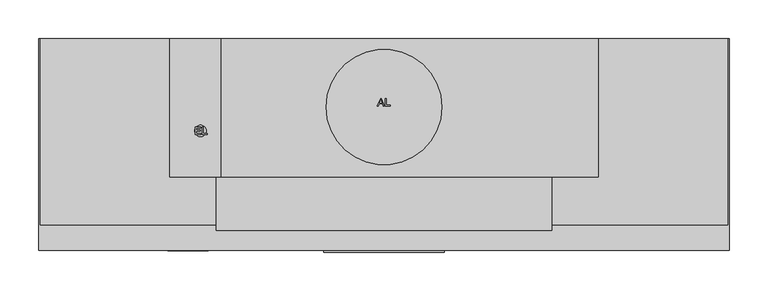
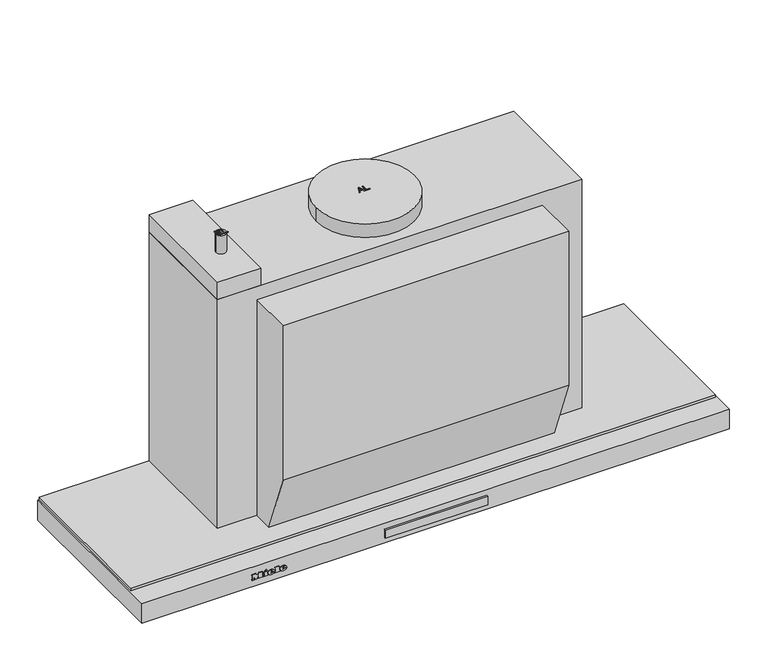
"""IFC4 building model written with IfcOpenShell, lengths in millimetres: proxy geometry, 12569030_PAC_DAS4920_MASW : 28S4920M_PAC_12569030_DAS4920_MASW."""

import ifcopenshell
import ifcopenshell.guid

model = None  # the IFC model being written
_history = None  # IfcOwnerHistory: only IFC2X3 demands one
_inside = {}  # id of a spatial element -> (the spatial element, [elements in it])
_under = {}  # id of a project, library or spatial element -> (it, [spatial elements below it])
_declared = {}  # id of a project -> (the project, [libraries it declares])
_typed = {}  # id of a type object -> (the type object, [elements of that type])
_made_of = {}  # id of a material, layer set ... -> (it, [elements and type objects made of it])


def new_model(schema):
    """Start an empty IFC model of exactly this schema.

    Asked for "IFC4X3", IfcOpenShell would pick the latest addendum, in which some entities
    have other attributes; the version numbers below select the first issue.
    IFC2X3 requires an IfcOwnerHistory on every rooted entity: one is made here for all.
    """
    global model, _history
    if schema == "IFC4X3":
        model = ifcopenshell.file(schema_version=(4, 3, 0, 0))
    else:
        model = ifcopenshell.file(schema=schema)
    _inside.clear()
    _under.clear()
    _declared.clear()
    _typed.clear()
    _made_of.clear()
    _history = None
    if model.schema == "IFC2X3":
        org = make("IfcOrganization", Name="unknown")
        user = make(
            "IfcPersonAndOrganization",
            ThePerson=make("IfcPerson", FamilyName="unknown"),
            TheOrganization=org,
        )
        app = make(
            "IfcApplication",
            ApplicationDeveloper=org,
            Version="unknown",
            ApplicationFullName="unknown",
            ApplicationIdentifier="unknown",
        )
        _history = make(
            "IfcOwnerHistory",
            OwningUser=user,
            OwningApplication=app,
            ChangeAction="ADDED",
            CreationDate=0,
        )
    return model


def make(cls, **values):
    """One entity of the class cls with the attributes given. An attribute that is None is left unset."""
    return model.create_entity(
        cls, **{name: value for name, value in values.items() if value is not None}
    )


def rooted(cls, **values):
    """An entity with a GlobalId (a new one), such as an element, a storey or a relation."""
    return make(cls, GlobalId=ifcopenshell.guid.new(), OwnerHistory=_history, **values)


def si_unit(unit_type, name, prefix=None):
    """IfcSIUnit, for example si_unit("LENGTHUNIT", "METRE", prefix="MILLI")."""
    return make("IfcSIUnit", UnitType=unit_type, Prefix=prefix, Name=name)


def assignment(units):
    """IfcUnitAssignment: the units of a project."""
    return None if units is None else make("IfcUnitAssignment", Units=units)


def point(xyz):
    """IfcCartesianPoint."""
    return None if xyz is None else make("IfcCartesianPoint", Coordinates=xyz)


def direction(xyz):
    """IfcDirection."""
    return None if xyz is None else make("IfcDirection", DirectionRatios=xyz)


def frame(location, z_axis=None, x_axis=None):
    """IfcAxis2Placement3D, a coordinate frame: its origin and axes. An axis left out is left unset."""
    return make(
        "IfcAxis2Placement3D",
        Location=point(location),
        Axis=direction(z_axis),
        RefDirection=direction(x_axis),
    )


def frame_2d(location, x_axis=None):
    """IfcAxis2Placement2D, a coordinate frame in the plane: its origin and x axis."""
    return make(
        "IfcAxis2Placement2D", Location=point(location), RefDirection=direction(x_axis)
    )


def origin():
    """The frame at (0, 0, 0) with its axes left unset."""
    return frame((0.0, 0.0, 0.0))


def origin_with_axes():
    """The frame at (0, 0, 0) with the z axis (0, 0, 1) and the x axis (1, 0, 0) written out."""
    return frame((0.0, 0.0, 0.0), z_axis=(0.0, 0.0, 1.0), x_axis=(1.0, 0.0, 0.0))


def place(relative_to, where):
    """IfcLocalPlacement: puts the frame where relative to a parent placement (None: the world)."""
    return make(
        "IfcLocalPlacement", PlacementRelTo=relative_to, RelativePlacement=where
    )


def context(
    kind, dimensions, precision=None, world=None, true_north=None, identifier=None
):
    """IfcGeometricRepresentationContext, for example the 3D "Model" context."""
    return make(
        "IfcGeometricRepresentationContext",
        ContextIdentifier=identifier,
        ContextType=kind,
        CoordinateSpaceDimension=dimensions,
        Precision=precision,
        WorldCoordinateSystem=world,
        TrueNorth=true_north,
    )


def project(units=None, contexts=None):
    """IfcProject with its units and contexts."""
    return rooted(
        "IfcProject",
        Name="project",
        RepresentationContexts=contexts,
        UnitsInContext=assignment(units),
    )


def spatial(cls, under=None, at=None, **own):
    """A site, building, storey or space (cls), placed at a placement, below another one or the project."""
    s = rooted(cls, ObjectPlacement=at, **own)
    if under is not None:
        _under.setdefault(under.id(), (under, []))[1].append(s)
    return s


def polyline(points):
    """IfcPolyline through the points."""
    return make("IfcPolyline", Points=[point(p) for p in points])


def circle_curve(where, radius):
    """IfcCircle in the frame where."""
    return make("IfcCircle", Position=where, Radius=radius)


def ellipse_curve(where, semi_axis1, semi_axis2):
    """IfcEllipse in the frame where."""
    return make(
        "IfcEllipse", Position=where, SemiAxis1=semi_axis1, SemiAxis2=semi_axis2
    )


def trimmed(basis, trim1, trim2, sense, master):
    """IfcTrimmedCurve: the piece of a basis curve between two trims."""
    return make(
        "IfcTrimmedCurve",
        BasisCurve=basis,
        Trim1=trim1,
        Trim2=trim2,
        SenseAgreement=sense,
        MasterRepresentation=master,
    )


def segment(curve, same_sense, transition):
    """IfcCompositeCurveSegment."""
    return make(
        "IfcCompositeCurveSegment",
        Transition=transition,
        SameSense=same_sense,
        ParentCurve=curve,
    )


def composite_curve(segments, self_intersect=None):
    """IfcCompositeCurve: segments joined end to end."""
    return make("IfcCompositeCurve", Segments=segments, SelfIntersect=self_intersect)


def outline(outer, holes=None, kind="AREA"):
    """IfcArbitraryClosedProfileDef: a profile drawn as a closed curve; with holes, ...WithVoids."""
    if holes is None:
        return make("IfcArbitraryClosedProfileDef", ProfileType=kind, OuterCurve=outer)
    return make(
        "IfcArbitraryProfileDefWithVoids",
        ProfileType=kind,
        OuterCurve=outer,
        InnerCurves=holes,
    )


def extrude(swept, where, along, depth):
    """IfcExtrudedAreaSolid: the profile swept, set in the frame where, extruded along a direction by depth."""
    return make(
        "IfcExtrudedAreaSolid",
        SweptArea=swept,
        Position=where,
        ExtrudedDirection=direction(along),
        Depth=depth,
    )


def faces_of(points, faces, orient=None, outer=None):
    """IfcFace entities. A face is a list of loops; a loop is a list of indices into points, from 0.

    orient and outer hold one flag for each loop. By default every Orientation is true, the
    first loop of a face is its IfcFaceOuterBound and the others are IfcFaceBound.
    """
    made = []
    for i, loops in enumerate(faces):
        bounds = []
        for j, loop in enumerate(loops):
            is_outer = j == 0 if outer is None else outer[i][j]
            bounds.append(
                make(
                    "IfcFaceOuterBound" if is_outer else "IfcFaceBound",
                    Bound=make("IfcPolyLoop", Polygon=[points[k] for k in loop]),
                    Orientation=True if orient is None else orient[i][j],
                )
            )
        made.append(make("IfcFace", Bounds=bounds))
    return made


def faceted_brep(points, faces, orient=None, outer=None, voids=None):
    """IfcFacetedBrep: a solid bounded by flat faces; with voids (closed shells), ...WithVoids."""
    shared = [point(p) for p in points]
    hull = make("IfcClosedShell", CfsFaces=faces_of(shared, faces, orient, outer))
    if voids is None:
        return make("IfcFacetedBrep", Outer=hull)
    return make(
        "IfcFacetedBrepWithVoids",
        Outer=hull,
        Voids=[
            make(cls, CfsFaces=faces_of(shared, fs, o, b)) for cls, fs, o, b in voids
        ],
    )


def shape(context_of_items, identifier, shape_type, items):
    """IfcShapeRepresentation: the items that make up one representation, for example the "Body"."""
    return make(
        "IfcShapeRepresentation",
        ContextOfItems=context_of_items,
        RepresentationIdentifier=identifier,
        RepresentationType=shape_type,
        Items=items,
    )


def source(mapping_origin, context_of_items, identifier, shape_type, items):
    """IfcRepresentationMap: a shape defined once, which mapped items show again and again."""
    return make(
        "IfcRepresentationMap",
        MappingOrigin=mapping_origin,
        MappedRepresentation=shape(context_of_items, identifier, shape_type, items),
    )


def transform(
    local_origin,
    x_axis=None,
    y_axis=None,
    z_axis=None,
    scale=None,
    scale2=None,
    scale3=None,
    uniform=True,
):
    """IfcCartesianTransformationOperator3D, or its non-uniform kind. x_axis, y_axis, z_axis: its Axis1, 2, 3."""
    if uniform:
        return make(
            "IfcCartesianTransformationOperator3D",
            Axis1=direction(x_axis),
            Axis2=direction(y_axis),
            LocalOrigin=point(local_origin),
            Scale=scale,
            Axis3=direction(z_axis),
        )
    return make(
        "IfcCartesianTransformationOperator3DnonUniform",
        Axis1=direction(x_axis),
        Axis2=direction(y_axis),
        LocalOrigin=point(local_origin),
        Scale=scale,
        Axis3=direction(z_axis),
        Scale2=scale2,
        Scale3=scale3,
    )


def mapped(mapping_source, mapping_target):
    """IfcMappedItem: shows the shape of a source again, moved by a transform."""
    return make(
        "IfcMappedItem", MappingSource=mapping_source, MappingTarget=mapping_target
    )


def made_of(thing, what):
    """Note that an element or type object is made of a material, layer set ...; save() writes the relation."""
    if what is not None:
        _made_of.setdefault(what.id(), (what, []))[1].append(thing)
    return thing


def element(
    cls,
    number,
    at=None,
    inside=None,
    cuts=None,
    type_object=None,
    material=None,
    context=None,
    identifier="Body",
    shape_type=None,
    held_by="IfcProductDefinitionShape",
    body=None,
    shapes=None,
    **own,
):
    """One element of the class cls, such as IfcWall. Its Tag is "e" and its number.

    at: its placement. inside: the storey or other place that contains it. cuts: it is an
    opening in that element (IfcRelVoidsElement). A single representation is given by context,
    identifier, shape_type and body (its items); several are given by shapes. held_by: the class
    of the entity that holds the representations. save() writes the other relations.
    """
    e = rooted(cls, Tag="e%d" % number, ObjectPlacement=at, **own)
    if body is not None:
        shapes = [shape(context, identifier, shape_type, body)]
    if shapes is not None:
        e.Representation = make(held_by, Representations=shapes)
    if inside is not None:
        _inside.setdefault(inside.id(), (inside, []))[1].append(e)
    if cuts is not None:
        rooted(
            "IfcRelVoidsElement", RelatingBuildingElement=cuts, RelatedOpeningElement=e
        )
    if type_object is not None:
        _typed.setdefault(type_object.id(), (type_object, []))[1].append(e)
    return made_of(e, material)


def aggregate(whole, parts):
    """IfcRelAggregates: a whole, such as a stair, and the parts it consists of."""
    return rooted("IfcRelAggregates", RelatingObject=whole, RelatedObjects=parts)


def save(model, path):
    """Write the relations noted so far, then the file.

    IfcRelAggregates (storeys below a building ...), IfcRelContainedInSpatialStructure (elements
    in a storey), IfcRelDefinesByType, IfcRelAssociatesMaterial and IfcRelDeclares: one each for
    every whole, place, type object, material and project.
    """
    for whole, parts in _under.values():
        aggregate(whole, parts)
    for where, things in _inside.values():
        rooted(
            "IfcRelContainedInSpatialStructure",
            RelatedElements=things,
            RelatingStructure=where,
        )
    for kind, things in _typed.values():
        rooted("IfcRelDefinesByType", RelatedObjects=things, RelatingType=kind)
    for what, things in _made_of.values():
        rooted("IfcRelAssociatesMaterial", RelatedObjects=things, RelatingMaterial=what)
    for by, libraries in _declared.values():
        rooted("IfcRelDeclares", RelatingContext=by, RelatedDefinitions=libraries)
    model.write(path)


def plane_surface(at):
    """IfcPlane: the flat surface through the origin of the frame at, square to its z axis."""
    return make("IfcPlane", Position=at)


def cylinder_surface(at, radius):
    """IfcCylindricalSurface: all points at the distance radius from the z axis of the frame at."""
    return make("IfcCylindricalSurface", Position=at, Radius=radius)


def revolved_surface(curve, axis_point, axis_direction):
    """IfcSurfaceOfRevolution: the curve turned about the line through axis_point along axis_direction."""
    return make(
        "IfcSurfaceOfRevolution",
        SweptCurve=make("IfcArbitraryOpenProfileDef", ProfileType="CURVE", Curve=curve),
        AxisPosition=make("IfcAxis1Placement", Location=point(axis_point), Axis=direction(axis_direction)),
    )


def extruded_surface(curve, direction_of_extrusion, depth):
    """IfcSurfaceOfLinearExtrusion: the curve pushed along a direction by depth."""
    return make(
        "IfcSurfaceOfLinearExtrusion",
        SweptCurve=make("IfcArbitraryOpenProfileDef", ProfileType="CURVE", Curve=curve),
        ExtrudedDirection=direction(direction_of_extrusion),
        Depth=depth,
    )


def advanced_brep(points, edges, surfaces, faces):
    """IfcAdvancedBrep: a solid bounded by faces that lie on surfaces and meet in shared edges.

    An edge is (start, end): straight between two places in points (the first is 0);
    or (start, end, curve); or (start, end, curve, False) where it runs against its curve.
    A face is (place in surfaces, loops), or (place, loops, False) where it looks against
    its surface's normal. A loop lists edges by number (the first is 1), with a minus sign
    where the edge is run from its end to its start. The first loop is the outer one.
    """
    corners = [point(p) for p in points]
    vertices = [make("IfcVertexPoint", VertexGeometry=c) for c in corners]
    made = []
    for start, end, *more in edges:
        made.append(
            make(
                "IfcEdgeCurve",
                EdgeStart=vertices[start],
                EdgeEnd=vertices[end],
                EdgeGeometry=more[0] if more else make("IfcPolyline", Points=[corners[start], corners[end]]),
                SameSense=more[1] if len(more) > 1 else True,
            )
        )
    hull = []
    for where, loops, *sense in faces:
        bounds = []
        for j, loop in enumerate(loops):
            ring = [make("IfcOrientedEdge", EdgeElement=made[abs(k) - 1], Orientation=k > 0) for k in loop]
            bounds.append(
                make(
                    "IfcFaceOuterBound" if j == 0 else "IfcFaceBound",
                    Bound=make("IfcEdgeLoop", EdgeList=ring),
                    Orientation=True,
                )
            )
        hull.append(make("IfcAdvancedFace", Bounds=bounds, FaceSurface=surfaces[where], SameSense=sense[0] if sense else True))
    return make("IfcAdvancedBrep", Outer=make("IfcClosedShell", CfsFaces=hull))


def specialty_equipment_a7e02c89(model_context):
    return source(origin(), model_context, "Body", "SolidModel", [
        extrude(outline(polyline([(78.0, -275.0), (78.0, -277.3978707), (-78.0, -277.3978707), (-78.0, -275.0), (78.0, -275.0)])), frame((0.0, 0.0, -23.0389651), z_axis=(0.0, 0.0, 1.0), x_axis=(1.0, 0.0, 0.0)), (0.0, 0.0, 1.0), 13.3389155),
        advanced_brep(
        [(-233.4590019, -276.0, -18.7681017), (-233.4590019, -276.0, -17.8894017), (-227.6387019, -276.0, -17.8894017), (-237.7655019, -276.0, -17.8894017), (-235.3730019, -276.0, -20.8300017), (-227.7866019, -276.0, -18.7681017), (-230.4140019, -276.0, -18.7681017), (-232.4846019, -276.0, -19.7425017), (-233.4590019, -276.0, -16.7758017), (-233.4590019, -276.0, -15.8275017), (-231.9713019, -276.0, -15.8275017), (-231.9713019, -276.0, -16.7758017), (-233.4590019, -275.0, -18.7681017), (-232.4846019, -275.0, -19.7425017), (-230.4140019, -275.0, -18.7681017), (-227.7866019, -275.0, -18.7681017), (-235.3730019, -275.0, -20.8300017), (-237.7655019, -275.0, -17.8894017), (-227.6387019, -275.0, -17.8894017), (-233.4590019, -275.0, -17.8894017), (-233.4590019, -275.0, -16.7758017), (-231.9713019, -275.0, -16.7758017), (-231.9713019, -275.0, -15.8275017), (-233.4590019, -275.0, -15.8275017)],
        [
            (0, 1),
            (1, 2),
            (2, 3, ellipse_curve(frame((-232.7021019, -276.0, -17.8894017), z_axis=(0.0, -1.0, 0.0), x_axis=(-1.0, 0.0, 0.0)), 5.0634, 4.1847)),
            (3, 4, circle_curve(frame((-234.3985544, -276.0, -17.5936017), z_axis=(0.0, -1.0, 0.0), x_axis=(0.0, 0.0, -1.0)), 3.3799161)),
            (4, 5, circle_curve(frame((-232.8034638, -276.0, -15.2968017), z_axis=(0.0, -1.0, 0.0), x_axis=(0.0, 0.0, -1.0)), 6.1007236)),
            (5, 6),
            (6, 7, circle_curve(frame((-232.0593254, -276.0, -17.9590017), z_axis=(0.0, 1.0, 0.0), x_axis=(0.0, 0.0, -1.0)), 1.8335027)),
            (7, 0, circle_curve(frame((-232.4846019, -276.0, -18.7681017), z_axis=(0.0, 1.0, 0.0), x_axis=(0.0, 0.0, -1.0)), 0.9744)),
            (8, 9),
            (9, 10, circle_curve(frame((-232.7151519, -276.0, -15.8275017), z_axis=(0.0, 1.0, 0.0), x_axis=(0.0, 0.0, -1.0)), 0.74385)),
            (10, 11),
            (11, 8),
            (12, 13, circle_curve(frame((-232.4846019, -275.0, -18.7681017), z_axis=(0.0, -1.0, 0.0), x_axis=(0.0, 0.0, -1.0)), 0.9744)),
            (13, 14, circle_curve(frame((-232.0593254, -275.0, -17.9590017), z_axis=(0.0, -1.0, 0.0), x_axis=(0.0, 0.0, -1.0)), 1.8335027)),
            (14, 15),
            (15, 16, circle_curve(frame((-232.8034638, -275.0, -15.2968017), z_axis=(0.0, 1.0, 0.0), x_axis=(0.0, 0.0, -1.0)), 6.1007236)),
            (16, 17, circle_curve(frame((-234.3985544, -275.0, -17.5936017), z_axis=(0.0, 1.0, 0.0), x_axis=(0.0, 0.0, -1.0)), 3.3799161)),
            (17, 18, ellipse_curve(frame((-232.7021019, -275.0, -17.8894017), z_axis=(0.0, 1.0, 0.0), x_axis=(-1.0, 0.0, 0.0)), 5.0634, 4.1847)),
            (18, 19),
            (19, 12),
            (20, 21),
            (21, 22),
            (22, 23, circle_curve(frame((-232.7151519, -275.0, -15.8275017), z_axis=(0.0, -1.0, 0.0), x_axis=(0.0, 0.0, -1.0)), 0.74385)),
            (23, 20),
            (0, 12),
            (19, 1),
            (18, 2),
            (5, 15),
            (14, 6),
            (17, 3),
            (13, 7),
            (16, 4),
            (8, 20),
            (23, 9),
            (22, 10),
            (21, 11),
        ],
        [
            plane_surface(frame((-233.4590019, -276.0, -17.8894017), z_axis=(0.0, -1.0, 0.0), x_axis=(0.0, 0.0, 1.0))),
            plane_surface(frame((-233.4590019, -275.0, -17.8894017), z_axis=(0.0, 1.0, 0.0), x_axis=(0.0, 0.0, -1.0))),
            plane_surface(frame((-233.4590019, -276.0, -18.7681017), z_axis=(1.0, 0.0, 0.0), x_axis=(0.0, 1.0, 0.0))),
            plane_surface(frame((-233.4590019, -276.0, -17.8894017), z_axis=(0.0, 0.0, -1.0), x_axis=(0.0, 1.0, 0.0))),
            plane_surface(frame((-227.7866019, -276.0, -18.7681017), z_axis=(0.0, 0.0, 1.0), x_axis=(0.0, 1.0, 0.0))),
            extruded_surface(trimmed(ellipse_curve(frame((-232.7021019, -274.0, -17.8894017), z_axis=(0.0, -1.0, 0.0), x_axis=(-1.0, 0.0, 0.0)), 5.0634, 4.1847), [point((-227.6387019, -274.0, -17.8894017))], [point((-237.7655019, -274.0, -17.8894017))], True, "CARTESIAN"), (0.0, -1.0, 0.0), 1.0),
            revolved_surface(polyline([(-232.0593254, -275.0, -19.792504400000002), (-232.0593254, -276.0, -19.792504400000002)]), (-232.0593254, -275.0, -17.9590017), (0.0, 1.0, 0.0)),
            revolved_surface(polyline([(-232.4846019, -275.0, -19.7425017), (-232.4846019, -276.0, -19.7425017)]), (-232.4846019, -275.0, -18.7681017), (0.0, 1.0, 0.0)),
            cylinder_surface(frame((-234.3985544, -275.0, -17.5936017), z_axis=(0.0, -1.0, 0.0), x_axis=(0.0, 0.0, -1.0)), 3.3799161),
            cylinder_surface(frame((-232.8034638, -275.0, -15.2968017), z_axis=(0.0, -1.0, 0.0), x_axis=(0.0, 0.0, -1.0)), 6.1007236),
            plane_surface(frame((-233.4590019, -276.0, -16.7758017), z_axis=(1.0, 0.0, 0.0), x_axis=(0.0, 1.0, 0.0))),
            revolved_surface(polyline([(-232.7151519, -275.0, -16.571351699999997), (-232.7151519, -276.0, -16.571351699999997)]), (-232.7151519, -275.0, -15.8275017), (0.0, 1.0, 0.0)),
            plane_surface(frame((-231.9713019, -276.0, -15.8275017), z_axis=(-1.0, 0.0, 0.0), x_axis=(0.0, 1.0, 0.0))),
            plane_surface(frame((-231.9713019, -276.0, -16.7758017), z_axis=(0.0, 0.0, 1.0), x_axis=(0.0, 1.0, 0.0))),
        ],
        [
            (0, [[1, 2, 3, 4, 5, 6, 7, 8], [9, 10, 11, 12]]),
            (1, [[13, 14, 15, 16, 17, 18, 19, 20], [21, 22, 23, 24]]),
            (2, [[-1, 25, -20, 26]]),
            (3, [[-2, -26, -19, 27]]),
            (4, [[-6, 28, -15, 29]]),
            (5, [[-3, -27, -18, 30]]),
            (6, [[-7, -29, -14, 31]]),
            (7, [[-8, -31, -13, -25]]),
            (8, [[-4, -30, -17, 32]]),
            (9, [[-5, -32, -16, -28]]),
            (10, [[-9, 33, -24, 34]]),
            (11, [[-10, -34, -23, 35]]),
            (12, [[-11, -35, -22, 36]]),
            (13, [[-12, -36, -21, -33]]),
        ],
    ),
        advanced_brep(
        [(-251.6159019, -276.0, -18.7681017), (-251.6159019, -276.0, -17.8894017), (-245.7956019, -276.0, -17.8894017), (-255.9224019, -276.0, -17.8894017), (-253.5299019, -276.0, -20.8300017), (-245.9435019, -276.0, -18.7681017), (-248.5709019, -276.0, -18.7681017), (-250.6415019, -276.0, -19.7425017), (-251.6159019, -276.0, -16.7758017), (-251.6159019, -276.0, -15.8275017), (-250.1282019, -276.0, -15.8275017), (-250.1282019, -276.0, -16.7758017), (-251.6159019, -275.0, -18.7681017), (-250.6415019, -275.0, -19.7425017), (-248.5709019, -275.0, -18.7681017), (-245.9435019, -275.0, -18.7681017), (-253.5299019, -275.0, -20.8300017), (-255.9224019, -275.0, -17.8894017), (-245.7956019, -275.0, -17.8894017), (-251.6159019, -275.0, -17.8894017), (-251.6159019, -275.0, -16.7758017), (-250.1282019, -275.0, -16.7758017), (-250.1282019, -275.0, -15.8275017), (-251.6159019, -275.0, -15.8275017)],
        [
            (0, 1),
            (1, 2),
            (2, 3, ellipse_curve(frame((-250.8590019, -276.0, -17.8894017), z_axis=(0.0, -1.0, 0.0), x_axis=(-1.0, 0.0, 0.0)), 5.0634, 4.1847)),
            (3, 4, circle_curve(frame((-252.5554544, -276.0, -17.5936017), z_axis=(0.0, -1.0, 0.0), x_axis=(0.0, 0.0, -1.0)), 3.3799161)),
            (4, 5, circle_curve(frame((-250.9603638, -276.0, -15.2968017), z_axis=(0.0, -1.0, 0.0), x_axis=(0.0, 0.0, -1.0)), 6.1007236)),
            (5, 6),
            (6, 7, circle_curve(frame((-250.2162254, -276.0, -17.9590017), z_axis=(0.0, 1.0, 0.0), x_axis=(0.0, 0.0, -1.0)), 1.8335027)),
            (7, 0, circle_curve(frame((-250.6415019, -276.0, -18.7681017), z_axis=(0.0, 1.0, 0.0), x_axis=(0.0, 0.0, -1.0)), 0.9744)),
            (8, 9),
            (9, 10, circle_curve(frame((-250.8720519, -276.0, -15.8275017), z_axis=(0.0, 1.0, 0.0), x_axis=(0.0, 0.0, -1.0)), 0.74385)),
            (10, 11),
            (11, 8),
            (12, 13, circle_curve(frame((-250.6415019, -275.0, -18.7681017), z_axis=(0.0, -1.0, 0.0), x_axis=(0.0, 0.0, -1.0)), 0.9744)),
            (13, 14, circle_curve(frame((-250.2162254, -275.0, -17.9590017), z_axis=(0.0, -1.0, 0.0), x_axis=(0.0, 0.0, -1.0)), 1.8335027)),
            (14, 15),
            (15, 16, circle_curve(frame((-250.9603638, -275.0, -15.2968017), z_axis=(0.0, 1.0, 0.0), x_axis=(0.0, 0.0, -1.0)), 6.1007236)),
            (16, 17, circle_curve(frame((-252.5554544, -275.0, -17.5936017), z_axis=(0.0, 1.0, 0.0), x_axis=(0.0, 0.0, -1.0)), 3.3799161)),
            (17, 18, ellipse_curve(frame((-250.8590019, -275.0, -17.8894017), z_axis=(0.0, 1.0, 0.0), x_axis=(-1.0, 0.0, 0.0)), 5.0634, 4.1847)),
            (18, 19),
            (19, 12),
            (20, 21),
            (21, 22),
            (22, 23, circle_curve(frame((-250.8720519, -275.0, -15.8275017), z_axis=(0.0, -1.0, 0.0), x_axis=(0.0, 0.0, -1.0)), 0.74385)),
            (23, 20),
            (0, 12),
            (19, 1),
            (18, 2),
            (5, 15),
            (14, 6),
            (17, 3),
            (13, 7),
            (16, 4),
            (8, 20),
            (23, 9),
            (22, 10),
            (21, 11),
        ],
        [
            plane_surface(frame((-251.6159019, -276.0, -17.8894017), z_axis=(0.0, -1.0, 0.0), x_axis=(0.0, 0.0, 1.0))),
            plane_surface(frame((-251.6159019, -275.0, -17.8894017), z_axis=(0.0, 1.0, 0.0), x_axis=(0.0, 0.0, -1.0))),
            plane_surface(frame((-251.6159019, -276.0, -18.7681017), z_axis=(1.0, 0.0, 0.0), x_axis=(0.0, 1.0, 0.0))),
            plane_surface(frame((-251.6159019, -276.0, -17.8894017), z_axis=(0.0, 0.0, -1.0), x_axis=(0.0, 1.0, 0.0))),
            plane_surface(frame((-245.9435019, -276.0, -18.7681017), z_axis=(0.0, 0.0, 1.0), x_axis=(0.0, 1.0, 0.0))),
            extruded_surface(trimmed(ellipse_curve(frame((-250.8590019, -274.0, -17.8894017), z_axis=(0.0, -1.0, 0.0), x_axis=(-1.0, 0.0, 0.0)), 5.0634, 4.1847), [point((-245.7956019, -274.0, -17.8894017))], [point((-255.9224019, -274.0, -17.8894017))], True, "CARTESIAN"), (0.0, -1.0, 0.0), 1.0),
            revolved_surface(polyline([(-250.2162254, -275.0, -19.792504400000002), (-250.2162254, -276.0, -19.792504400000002)]), (-250.2162254, -275.0, -17.9590017), (0.0, 1.0, 0.0)),
            revolved_surface(polyline([(-250.6415019, -275.0, -19.7425017), (-250.6415019, -276.0, -19.7425017)]), (-250.6415019, -275.0, -18.7681017), (0.0, 1.0, 0.0)),
            cylinder_surface(frame((-252.5554544, -275.0, -17.5936017), z_axis=(0.0, -1.0, 0.0), x_axis=(0.0, 0.0, -1.0)), 3.3799161),
            cylinder_surface(frame((-250.9603638, -275.0, -15.2968017), z_axis=(0.0, -1.0, 0.0), x_axis=(0.0, 0.0, -1.0)), 6.1007236),
            plane_surface(frame((-251.6159019, -276.0, -16.7758017), z_axis=(1.0, 0.0, 0.0), x_axis=(0.0, 1.0, 0.0))),
            revolved_surface(polyline([(-250.8720519, -275.0, -16.571351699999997), (-250.8720519, -276.0, -16.571351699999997)]), (-250.8720519, -275.0, -15.8275017), (0.0, 1.0, 0.0)),
            plane_surface(frame((-250.1282019, -276.0, -15.8275017), z_axis=(-1.0, 0.0, 0.0), x_axis=(0.0, 1.0, 0.0))),
            plane_surface(frame((-250.1282019, -276.0, -16.7758017), z_axis=(0.0, 0.0, 1.0), x_axis=(0.0, 1.0, 0.0))),
        ],
        [
            (0, [[1, 2, 3, 4, 5, 6, 7, 8], [9, 10, 11, 12]]),
            (1, [[13, 14, 15, 16, 17, 18, 19, 20], [21, 22, 23, 24]]),
            (2, [[-1, 25, -20, 26]]),
            (3, [[-2, -26, -19, 27]]),
            (4, [[-6, 28, -15, 29]]),
            (5, [[-3, -27, -18, 30]]),
            (6, [[-7, -29, -14, 31]]),
            (7, [[-8, -31, -13, -25]]),
            (8, [[-4, -30, -17, 32]]),
            (9, [[-5, -32, -16, -28]]),
            (10, [[-9, 33, -24, 34]]),
            (11, [[-10, -34, -23, 35]]),
            (12, [[-11, -35, -22, 36]]),
            (13, [[-12, -36, -21, -33]]),
        ],
    ),
        extrude(outline(polyline([(-12.6433017, -261.1250019), (-14.0527017, -260.4638019), (-12.6781017, -257.5145019), (-11.2687017, -258.1670019), (-12.6433017, -261.1250019)])), frame((0.0, -276.0, 0.0), z_axis=(0.0, 1.0, 0.0), x_axis=(0.0, 0.0, 1.0)), (0.0, 0.0, 1.0), 1.0),
        extrude(outline(polyline([(-14.2441017, -263.2739019), (-15.8014017, -263.2739019), (-15.8014017, -262.2386019), (-19.3684017, -262.2386019), (-19.3684017, -263.2739019), (-20.8300017, -263.2739019), (-20.8300017, -256.4096019), (-19.3684017, -256.4096019), (-19.3684017, -257.4188019), (-14.2441017, -257.4188019), (-14.2441017, -263.2739019)])), frame((0.0, -276.0, 0.0), z_axis=(0.0, 1.0, 0.0), x_axis=(0.0, 0.0, 1.0)), (0.0, 0.0, 1.0), 1.0),
        extrude(outline(polyline([(-13.5481017, -245.3084019), (-13.5481017, -244.2644019), (-19.3684017, -244.2644019), (-19.3684017, -245.3084019), (-20.8300017, -245.3084019), (-20.8300017, -238.2527019), (-19.3684017, -238.2527019), (-19.3684017, -239.3228019), (-12.1300017, -239.3228019), (-12.1300017, -245.3084019), (-13.5481017, -245.3084019)])), frame((0.0, -276.0, 0.0), z_axis=(0.0, 1.0, 0.0), x_axis=(0.0, 0.0, 1.0)), (0.0, 0.0, 1.0), 1.0),
        extrude(outline(polyline([(-13.5481017, -280.6130019), (-13.5481017, -279.5603019), (-19.3684017, -279.5603019), (-19.3684017, -280.6130019), (-20.8300017, -280.6130019), (-20.8300017, -276.7850019), (-19.3684017, -276.7850019), (-19.3684017, -277.8290019), (-15.6719769, -277.8290019), (-20.8300017, -273.9401019), (-15.5772794, -270.0338019), (-19.3684017, -270.0338019), (-19.3684017, -271.1039019), (-20.8300017, -271.1039019), (-20.8300017, -264.1613019), (-19.3684017, -264.1613019), (-19.3684017, -265.2662019), (-13.5481017, -265.2662019), (-13.5481017, -264.1613019), (-12.1300017, -264.1613019), (-12.1300017, -269.4596019), (-15.3925017, -272.0000019), (-12.1300017, -274.5491019), (-12.1300017, -280.6130019), (-13.5481017, -280.6130019)])), frame((0.0, -276.0, 0.0), z_axis=(0.0, 1.0, 0.0), x_axis=(0.0, 0.0, 1.0)), (0.0, 0.0, 1.0), 1.0),
        extrude(outline(polyline([(278.0, -180.0), (-278.0, -180.0), (-278.0, 0.0), (278.0, 0.0), (278.0, -180.0)])), frame((0.0, 0.0, 4.0), z_axis=(0.0, 0.0, 1.0), x_axis=(1.0, 0.0, 0.0)), (0.0, 0.0, 1.0), 369.0),
        extrude(outline(composite_curve([segment(trimmed(circle_curve(frame_2d((0.0, -89.0)), 75.0), [point((-75.0, -89.0))], [point((75.0, -89.0))], False, "CARTESIAN"), True, "CONTINUOUS"), segment(trimmed(circle_curve(frame_2d((0.0, -89.0)), 75.0), [point((75.0, -89.0))], [point((-75.0, -89.0))], False, "CARTESIAN"), True, "CONTINUOUS")], self_intersect=False)), frame((0.0, 0.0, 373.0), z_axis=(0.0, 0.0, 1.0), x_axis=(1.0, 0.0, 0.0)), (0.0, 0.0, 1.0), 22.0),
        extrude(outline(polyline([(-278.0, -180.0), (-278.0, 0.0), (-212.0, 0.0), (-212.0, -180.0), (-278.0, -180.0)])), frame((0.0, 0.0, 373.0), z_axis=(0.0, 0.0, 1.0), x_axis=(1.0, 0.0, 0.0)), (0.0, 0.0, 1.0), 28.0),
        extrude(outline(polyline([(-180.0, 352.0), (-180.0, 4.0), (-211.7966838, 4.0), (-249.5, 103.2192532), (-249.5, 352.0), (-180.0, 352.0)])), frame((-217.7156244, 0.0, 0.0), z_axis=(1.0, 0.0, 0.0), x_axis=(0.0, 1.0, 0.0)), (0.0, 0.0, 1.0), 435.4312488),
        extrude(outline(polyline([(-8.547125, -87.975609), (-4.5372113, -77.929978), (-3.4679009, -77.929978), (0.5420128, -87.975609), (-0.7848149, -87.975609), (-1.9350593, -84.8363493), (-6.0725055, -84.8363493), (-7.2202973, -87.975609), (-8.547125, -87.975609)]), holes=[polyline([(-5.6114267, -83.5806455), (-2.3936855, -83.5806455), (-3.2986752, -81.110931), (-4.0025561, -79.1856819), (-4.6279555, -80.8951069), (-5.6114267, -83.5806455)])]), frame((0.0, 0.0, 395.0), z_axis=(0.0, 0.0, 1.0), x_axis=(1.0, 0.0, 0.0)), (0.0, 0.0, 1.0), 1.0),
        extrude(outline(polyline([(1.8835558, -87.975609), (1.8835558, -77.929978), (3.1392597, -77.929978), (3.1392597, -86.7199052), (8.1620752, -86.7199052), (8.1620752, -87.975609), (1.8835558, -87.975609)])), frame((0.0, 0.0, 395.0), z_axis=(0.0, 0.0, 1.0), x_axis=(1.0, 0.0, 0.0)), (0.0, 0.0, 1.0), 1.0),
        extrude(outline(polyline([(446.0, 0.0), (446.0, -242.0), (-446.0, -242.0), (-446.0, 0.0), (446.0, 0.0)])), origin_with_axes(), (0.0, 0.0, 1.0), 4.0),
        extrude(outline(polyline([(120.0, -19.25), (120.0, -31.75), (-120.0, -31.75), (-120.0, -19.25), (120.0, -19.25)])), frame((0.0, 0.0, -23.0), z_axis=(0.0, 0.0, 1.0), x_axis=(1.0, 0.0, 0.0)), (0.0, 0.0, 1.0), 1.785426),
        extrude(outline(polyline([(331.0813184, -268.0), (331.0813184, -246.0), (399.0, -246.0), (399.0, -268.0), (331.0813184, -268.0)])), frame((0.0, 0.0, -33.3019181), z_axis=(0.0, 0.0, 1.0), x_axis=(1.0, 0.0, 0.0)), (0.0, 0.0, 1.0), 1.3019181),
        extrude(outline(polyline([(-399.0, -268.0), (-399.0, -246.0), (-331.0, -246.0), (-331.0, -268.0), (-399.0, -268.0)])), frame((0.0, 0.0, -33.3019181), z_axis=(0.0, 0.0, 1.0), x_axis=(1.0, 0.0, 0.0)), (0.0, 0.0, 1.0), 1.3019181),
        extrude(outline(composite_curve([segment(trimmed(circle_curve(frame_2d((-238.0, -120.0)), 7.5), [point((-230.5, -120.0))], [point((-245.5, -120.0))], False, "CARTESIAN"), True, "CONTINUOUS"), segment(trimmed(circle_curve(frame_2d((-238.0, -120.0)), 7.5), [point((-245.5, -120.0))], [point((-230.5, -120.0))], False, "CARTESIAN"), True, "CONTINUOUS")], self_intersect=False)), frame((0.0, 0.0, 401.0), z_axis=(0.0, 0.0, 1.0), x_axis=(1.0, 0.0, 0.0)), (0.0, 0.0, 1.0), 30.0),
        extrude(outline(polyline([(-235.640443, -124.9184735), (-235.640443, -114.8728425), (-234.3847391, -114.8728425), (-234.3847391, -123.6627696), (-229.3619236, -123.6627696), (-229.3619236, -124.9184735), (-235.640443, -124.9184735)])), frame((0.0, 0.0, 431.0), z_axis=(0.0, 0.0, 1.0), x_axis=(1.0, 0.0, 0.0)), (0.0, 0.0, 1.0), 1.0),
        extrude(outline(polyline([(-244.9012591, -124.9184735), (-244.9012591, -114.8728425), (-237.6809618, -114.8728425), (-237.6809618, -116.1285464), (-243.6455552, -116.1285464), (-243.6455552, -119.1108431), (-237.9948878, -119.1108431), (-237.9948878, -120.366547), (-243.6455552, -120.366547), (-243.6455552, -123.6627696), (-237.5239988, -123.6627696), (-237.5239988, -124.9184735), (-244.9012591, -124.9184735)])), frame((0.0, 0.0, 431.0), z_axis=(0.0, 0.0, 1.0), x_axis=(1.0, 0.0, 0.0)), (0.0, 0.0, 1.0), 1.0),
        extrude(outline(polyline([(-448.0, 0.0), (-413.0, 0.0), (-413.0, -242.0), (413.0, -242.0), (413.0, 0.0), (448.0, 0.0), (448.0, -275.0), (-448.0, -275.0), (-448.0, 0.0)])), frame((0.0, 0.0, -32.0), z_axis=(0.0, 0.0, 1.0), x_axis=(1.0, 0.0, 0.0)), (0.0, 0.0, 1.0), 32.0),
        faceted_brep([(-126.0, -39.0, -24.0), (-126.0, -39.0, 0.0), (126.0, -39.0, 0.0), (126.0, -39.0, -24.0), (-126.0, -12.0, -24.0), (-126.0, -12.0, 0.0), (126.0, -12.0, -24.0), (126.0, -12.0, 0.0), (-413.0, -242.0, 0.0), (-413.0, 0.0, 0.0), (-413.0, 0.0, -24.0), (-413.0, -52.0, -24.0), (-413.0, -52.0, -25.0), (-413.0, -242.0, -25.0), (413.0, -52.0, -25.0), (413.0, -242.0, -25.0), (413.0, -52.0, -24.0), (413.0, 0.0, -24.0), (413.0, 0.0, 0.0), (413.0, -242.0, 0.0)], [[[0, 1, 2, 3]], [[4, 5, 1, 0]], [[6, 7, 5, 4]], [[8, 9, 10, 11, 12, 13]], [[13, 12, 14, 15]], [[16, 11, 10, 17], [6, 4, 0, 3]], [[11, 16, 14, 12]], [[18, 9, 8, 19], [5, 7, 2, 1]], [[9, 18, 17, 10]], [[19, 8, 13, 15]], [[18, 19, 15, 14, 16, 17]], [[7, 6, 3, 2]]]),
        extrude(outline(polyline([(126.0, -12.0), (126.0, -39.0), (-126.0, -39.0), (-126.0, -12.0), (126.0, -12.0)]), holes=[polyline([(120.0, -19.25), (-120.0, -19.25), (-120.0, -31.75), (120.0, -31.75), (120.0, -19.25)])]), frame((0.0, 0.0, -21.214574), z_axis=(0.0, 0.0, 1.0), x_axis=(1.0, 0.0, 0.0)), (0.0, 0.0, 1.0), 21.214574),
    ])


if __name__ == "__main__":
    model = new_model("IFC4")
    model_context = context("Model", 3, world=origin())
    ifc_project = project(units=[si_unit("LENGTHUNIT", "METRE", prefix="MILLI")], contexts=[model_context])
    site = spatial("IfcSite", under=ifc_project)
    building = spatial("IfcBuilding", under=site)
    placement = place(None, origin())
    specialty_equipment_shape = specialty_equipment_a7e02c89(model_context)
    element("IfcBuildingElementProxy", 1, Name="12569030_PAC_DAS4920_MASW : 28S4920M_PAC_12569030_DAS4920_MASW", ObjectType="12569030_PAC_DAS4920_MASW : 28S4920M_PAC_12569030_DAS4920_MASW", at=placement, inside=building, context=model_context, shape_type="MappedRepresentation", body=[
        mapped(specialty_equipment_shape, transform((0.0, 0.0, 0.0), x_axis=(1.0, 0.0, 0.0), y_axis=(0.0, 1.0, 0.0), z_axis=(0.0, 0.0, 1.0))),
    ])
    save(model, "model.ifc")
